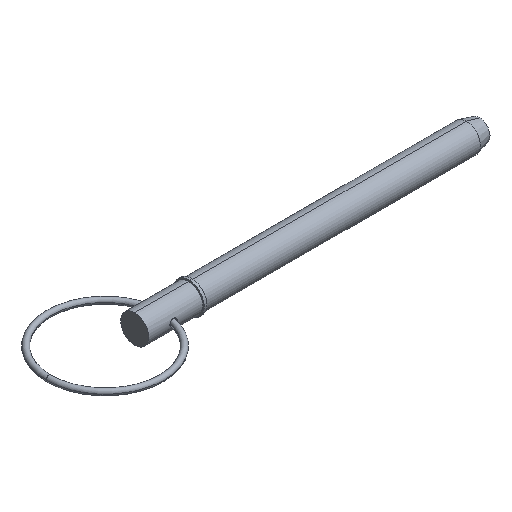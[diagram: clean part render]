
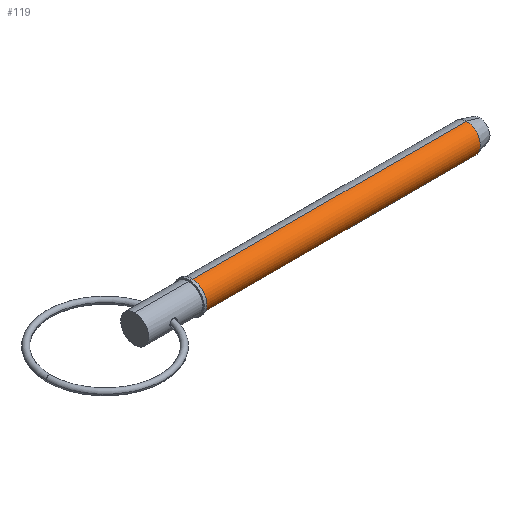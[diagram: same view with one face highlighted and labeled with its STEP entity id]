
A CAD part, isometric view. The second image highlights one B-rep face of the part: STEP entity #119.
In plain terms, the highlighted cylindrical face has radius 6.35 mm (diameter 12.7 mm), a partial arc.
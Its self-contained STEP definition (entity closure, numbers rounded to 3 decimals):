
#16 = CARTESIAN_POINT ( 'NONE',  ( 0., 0., 6.35 ) ) ;
#30 = VERTEX_POINT ( 'NONE', #109 ) ;
#44 = CARTESIAN_POINT ( 'NONE',  ( 0., 0., -6.35 ) ) ;
#106 = ORIENTED_EDGE ( 'NONE', *, *, #374, .T. ) ;
#109 = CARTESIAN_POINT ( 'NONE',  ( 149.955, 0., 6.35 ) ) ;
#114 = CARTESIAN_POINT ( 'NONE',  ( 25.7, 0., 0. ) ) ;
#119 = ADVANCED_FACE ( 'NONE', ( #647 ), #577, .T. ) ;
#156 = AXIS2_PLACEMENT_3D ( 'NONE', #249, #329, #805 ) ;
#192 = VERTEX_POINT ( 'NONE', #299 ) ;
#212 = EDGE_CURVE ( 'NONE', #519, #30, #499, .T. ) ;
#249 = CARTESIAN_POINT ( 'NONE',  ( 149.955, 0., 0. ) ) ;
#250 = DIRECTION ( 'NONE',  ( 1., 0., 0. ) ) ;
#252 = CARTESIAN_POINT ( 'NONE',  ( 25.7, 0., 6.35 ) ) ;
#292 = CIRCLE ( 'NONE', #556, 6.35 ) ;
#299 = CARTESIAN_POINT ( 'NONE',  ( 25.7, 0., -6.35 ) ) ;
#312 = CARTESIAN_POINT ( 'NONE',  ( 0., 0., 0. ) ) ;
#329 = DIRECTION ( 'NONE',  ( 1., 0., 0. ) ) ;
#346 = VERTEX_POINT ( 'NONE', #376 ) ;
#356 = ORIENTED_EDGE ( 'NONE', *, *, #628, .T. ) ;
#361 = DIRECTION ( 'NONE',  ( 1., 0., 0. ) ) ;
#374 = EDGE_CURVE ( 'NONE', #519, #192, #292, .T. ) ;
#376 = CARTESIAN_POINT ( 'NONE',  ( 149.955, 0., -6.35 ) ) ;
#453 = VECTOR ( 'NONE', #672, 1000. ) ;
#499 = LINE ( 'NONE', #16, #587 ) ;
#503 = AXIS2_PLACEMENT_3D ( 'NONE', #312, #969, #963 ) ;
#519 = VERTEX_POINT ( 'NONE', #252 ) ;
#556 = AXIS2_PLACEMENT_3D ( 'NONE', #114, #361, #685 ) ;
#577 = CYLINDRICAL_SURFACE ( 'NONE', #503, 6.35 ) ;
#587 = VECTOR ( 'NONE', #250, 1000. ) ;
#628 = EDGE_CURVE ( 'NONE', #192, #346, #930, .T. ) ;
#647 = FACE_OUTER_BOUND ( 'NONE', #755, .T. ) ;
#672 = DIRECTION ( 'NONE',  ( 1., 0., 0. ) ) ;
#685 = DIRECTION ( 'NONE',  ( 0., 0., -1. ) ) ;
#755 = EDGE_LOOP ( 'NONE', ( #998, #106, #356, #767 ) ) ;
#767 = ORIENTED_EDGE ( 'NONE', *, *, #872, .F. ) ;
#805 = DIRECTION ( 'NONE',  ( 0., 0., -1. ) ) ;
#836 = CIRCLE ( 'NONE', #156, 6.35 ) ;
#872 = EDGE_CURVE ( 'NONE', #30, #346, #836, .T. ) ;
#930 = LINE ( 'NONE', #44, #453 ) ;
#963 = DIRECTION ( 'NONE',  ( 0., 0., -1. ) ) ;
#969 = DIRECTION ( 'NONE',  ( 1., 0., 0. ) ) ;
#998 = ORIENTED_EDGE ( 'NONE', *, *, #212, .F. ) ;
